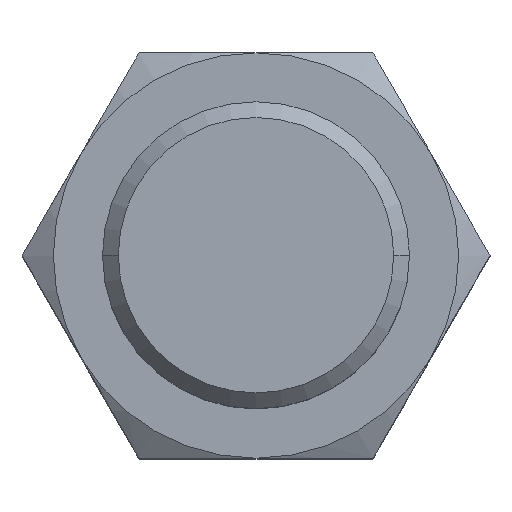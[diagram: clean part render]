
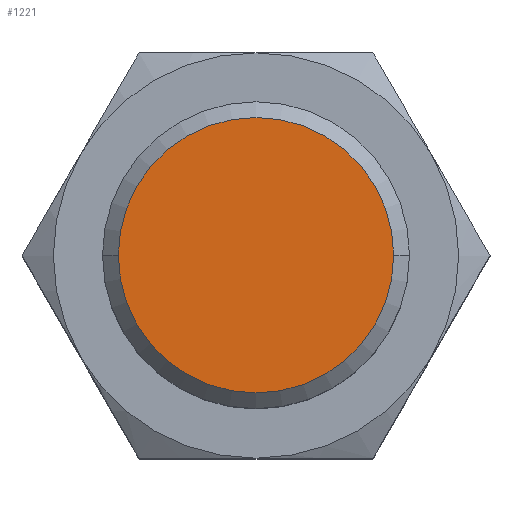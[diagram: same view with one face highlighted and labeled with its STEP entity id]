
A CAD part, top view. The second image highlights one B-rep face of the part: STEP entity #1221.
In plain terms, the highlighted planar face has unit normal (0, 0, 1).
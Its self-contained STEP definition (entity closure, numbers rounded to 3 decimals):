
#4 = ORIENTED_EDGE ( 'NONE', *, *, #117, .F. ) ;
#17 = CARTESIAN_POINT ( 'NONE',  ( 7.475, 0., 39. ) ) ;
#30 = VERTEX_POINT ( 'NONE', #17 ) ;
#38 = DIRECTION ( 'NONE',  ( 0., 0., -1. ) ) ;
#117 = EDGE_CURVE ( 'NONE', #30, #610, #228, .T. ) ;
#187 = AXIS2_PLACEMENT_3D ( 'NONE', #767, #38, #999 ) ;
#213 = ORIENTED_EDGE ( 'NONE', *, *, #490, .F. ) ;
#228 = CIRCLE ( 'NONE', #187, 7.475 ) ;
#488 = DIRECTION ( 'NONE',  ( 0., 0., 1. ) ) ;
#490 = EDGE_CURVE ( 'NONE', #610, #30, #1406, .T. ) ;
#503 = DIRECTION ( 'NONE',  ( 1., 0., 0. ) ) ;
#610 = VERTEX_POINT ( 'NONE', #1537 ) ;
#636 = EDGE_LOOP ( 'NONE', ( #4, #213 ) ) ;
#767 = CARTESIAN_POINT ( 'NONE',  ( 0., 0., 39. ) ) ;
#863 = AXIS2_PLACEMENT_3D ( 'NONE', #1128, #1489, #1117 ) ;
#987 = PLANE ( 'NONE',  #1329 ) ;
#999 = DIRECTION ( 'NONE',  ( 1., 0., 0. ) ) ;
#1102 = CARTESIAN_POINT ( 'NONE',  ( 3.737, 0., 39. ) ) ;
#1117 = DIRECTION ( 'NONE',  ( 1., 0., 0. ) ) ;
#1128 = CARTESIAN_POINT ( 'NONE',  ( 0., 0., 39. ) ) ;
#1221 = ADVANCED_FACE ( 'NONE', ( #1245 ), #987, .T. ) ;
#1245 = FACE_OUTER_BOUND ( 'NONE', #636, .T. ) ;
#1329 = AXIS2_PLACEMENT_3D ( 'NONE', #1102, #488, #503 ) ;
#1406 = CIRCLE ( 'NONE', #863, 7.475 ) ;
#1489 = DIRECTION ( 'NONE',  ( 0., 0., -1. ) ) ;
#1537 = CARTESIAN_POINT ( 'NONE',  ( -7.475, 0., 39. ) ) ;
